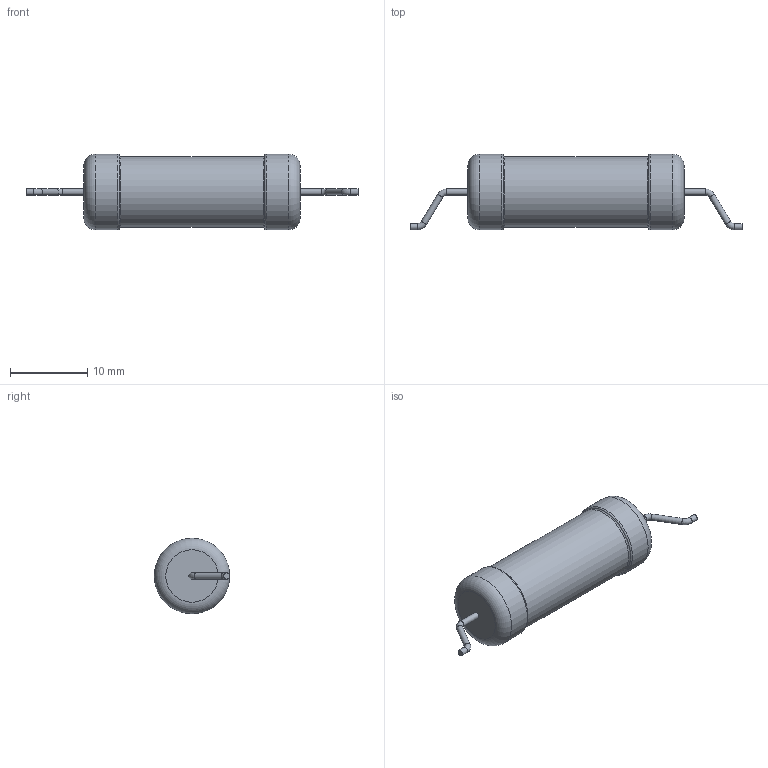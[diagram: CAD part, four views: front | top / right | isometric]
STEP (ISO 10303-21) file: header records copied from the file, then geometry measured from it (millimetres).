
FILE_DESCRIPTION(('STEP AP203'), '1');
FILE_NAME('Ñ2-29Â-2(3)', '', ('UNSPECIFIED'), ('UNSPECIFIED'), 'ASCON STEP Converter 1.6', 'ASCON Math Kernel', '');
FILE_SCHEMA(('CONFIG_CONTROL_DESIGN'));
Length unit declared in the file: millimetre
Bounding box: 43 x 9.8 x 9.8 mm (x, y, z)
Volume: 1919 mm3; surface area: 992.7 mm2
Topology: 1 solids, 1 shells, 23 faces, 41 edges, 22 vertices
Faces by surface type: torus 10, cylinder 9, plane 4
Full cylindrical faces by diameter (mm): 0.8 x6, 9.176 x1, 9.8 x2
Entity records: 682 total; most frequent: DIRECTION 92, CARTESIAN_POINT 68, AXIS2_PLACEMENT_3D 46, EDGE_LOOP 44, ORIENTED_EDGE 44, FACE_OUTER_BOUND 38, COLOUR_RGB 24, FILL_AREA_STYLE_COLOUR 24
